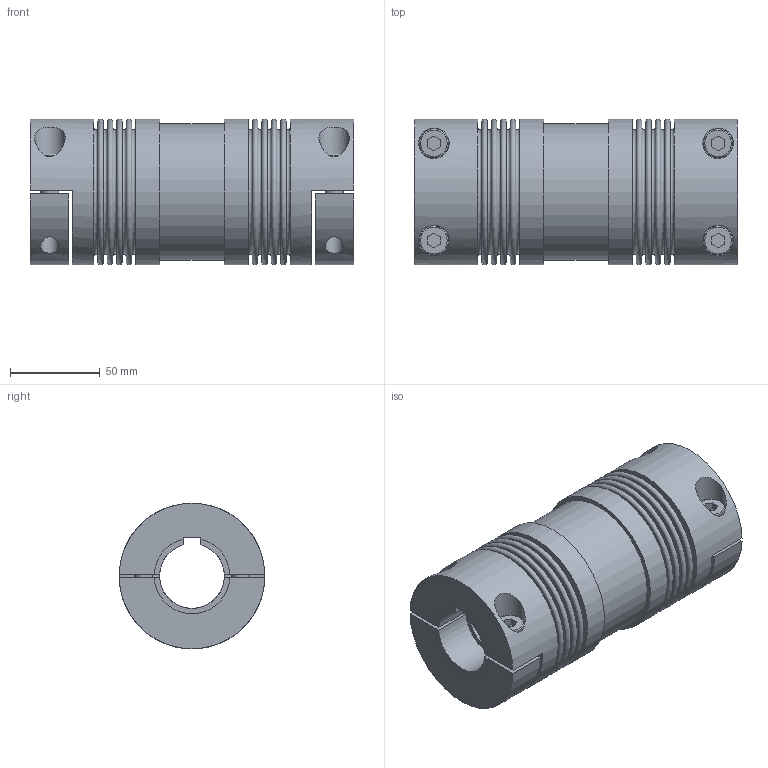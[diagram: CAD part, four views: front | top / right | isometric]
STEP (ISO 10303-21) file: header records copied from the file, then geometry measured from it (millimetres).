
FILE_DESCRIPTION(/* description */ ('STEP AP214'),/* implementation_level */ '2;1');
FILE_NAME(/* name */ 'C:\Diequa Files\ENGINEERING_Drawings\DWG-FILES\DQS''s\DQS-674_DB45 CR H2 BM(F70-50) with DQM-739\LBS.150.L.#.#.stp',/* time_stamp */ '2019-05-01T15:45:44-05:00',/* author */ ('DiequaCAD'),/* organization */ (''),/* preprocessor_version */ 'ST-DEVELOPER v18',/* originating_system */ 'Autodesk Inventor 2020',/* authorisation */ ' ');
FILE_SCHEMA (('AUTOMOTIVE_DESIGN { 1 0 10303 214 3 1 1 }'));
Length unit declared in the file: millimetre
Products named in the file (1): ZAE_150_36_PFN_36_PFN_30
Bounding box: 180 x 81 x 81 mm (x, y, z)
Volume: 407813.8 mm3; surface area: 132781 mm2
Topology: 1 solids, 1 shells, 152 faces, 382 edges, 276 vertices
Faces by surface type: plane 94, cylinder 36, torus 22
Full cylindrical faces by diameter (mm): 10 x8, 16 x4, 17 x4, 60.8 x1, 67 x2, 76 x1, 81 x4
Entity records: 5074 total; most frequent: CARTESIAN_POINT 1111, DIRECTION 874, ORIENTED_EDGE 764, EDGE_CURVE 382, AXIS2_PLACEMENT_3D 351, VERTEX_POINT 276, EDGE_LOOP 202, CIRCLE 198
